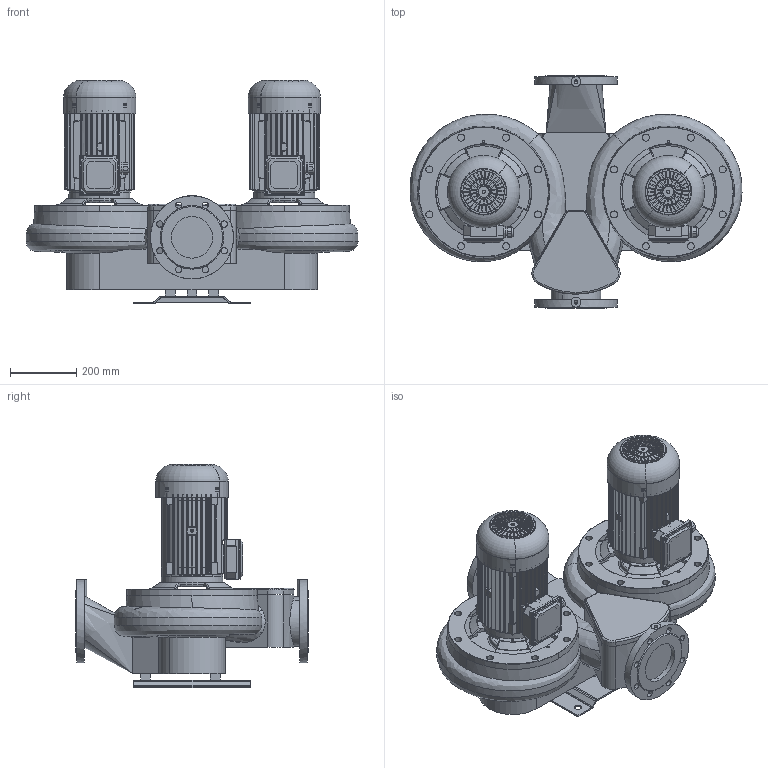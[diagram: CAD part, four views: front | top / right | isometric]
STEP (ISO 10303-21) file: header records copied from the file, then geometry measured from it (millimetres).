
FILE_DESCRIPTION(('STEP AP214'),'1');
FILE_NAME('export.stp','2018-05-28T12:41:55',(' '),(' '),'Spatial InterOp 3D',' ',' ');
FILE_SCHEMA(('AUTOMOTIVE_DESIGN { 1 0 10303 214 1 1 1 1 }'));
Length unit declared in the file: millimetre
Products named in the file (20): W_AT11294400KP112; V_TL110611291154; V_PPAT1129; P100496; P100495; P100342; 440017; 440016; V_MKP112_2_F31; 480018; 480017; 440018; 440021; 480022; 480020; M25_Blind_Plug; M25_tiivisteholkk
Assembly tree (29 placements, depth 4):
  W_AT11294400KP112
    V_TL110611291154  x2
    V_PPAT1129
    P100496
      P100495  x2
      P100342
    V_MKP112_2_F31
      440017
        440016
      480018
        480017
      440018
      440021
      480022
      480020
      M25_Blind_Plug
      M25_tiivisteholkk
    V_MKP112_2_F31
      440017
        440016
      480018
        480017
      440018
      440021
      480022
      480020
      M25_Blind_Plug
      M25_tiivisteholkk
Bounding box: 999.61 x 700 x 673.4 mm (x, y, z)
Volume: 72884732.9 mm3; surface area: 7146272.2 mm2
Topology: 22 solids, 22 shells, 3179 faces, 8915 edges, 5855 vertices
Faces by surface type: cylinder 1522, plane 1071, cone 276, torus 248, bspline 62
Entity records: 70830 total; most frequent: CARTESIAN_POINT 22228, ORIENTED_EDGE 9590, DIRECTION 9303, EDGE_CURVE 4795, AXIS2_PLACEMENT_3D 3577, VERTEX_POINT 3153, LINE 2149, VECTOR 2149
